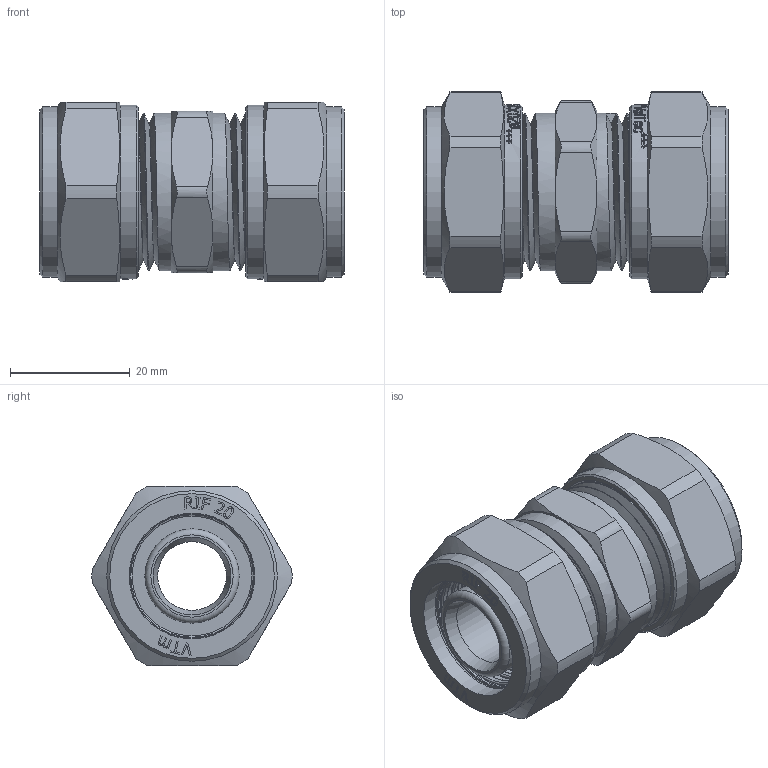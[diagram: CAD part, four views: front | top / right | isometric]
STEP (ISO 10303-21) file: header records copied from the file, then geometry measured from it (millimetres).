
FILE_DESCRIPTION(/* description */ (''),/* implementation_level */ '2;1');
FILE_NAME(/* name */ 'E:\Артём\00000\Работа удаленка\Обжимные фитинги\VTm.303.N.002020.stp',/* time_stamp */ '2020-06-10T15:37:01+03:00',/* author */ ('BeN_GaN'),/* organization */ (''),/* preprocessor_version */ 'ST-DEVELOPER v18',/* originating_system */ 'Autodesk Inventor 2020',/* authorisation */ '');
FILE_SCHEMA (('AUTOMOTIVE_DESIGN { 1 0 10303 214 3 1 1 }'));
Length unit declared in the file: millimetre
Products named in the file (1): VTm.303.N.002020
Bounding box: 50.96 x 33.43 x 30 mm (x, y, z)
Volume: 22269 mm3; surface area: 16428.9 mm2
Topology: 1 solids, 3 shells, 1245 faces, 3484 edges, 2352 vertices
Faces by surface type: bspline 688, plane 328, cylinder 149, torus 46, cone 34
Full cylindrical faces by diameter (mm): 11.5 x1, 13.4 x4, 15.75 x8, 19.986 x8, 20.2 x2, 20.728 x10, 21 x2, 22.8 x4, 23.201 x2, 24.2 x2, 26.4 x6, 28.5 x2, 29 x2
Entity records: 52021 total; most frequent: CARTESIAN_POINT 24260, ORIENTED_EDGE 6968, DIRECTION 3702, EDGE_CURVE 3484, VERTEX_POINT 2352, B_SPLINE_CURVE_WITH_KNOTS 1430, LINE 1426, VECTOR 1426
